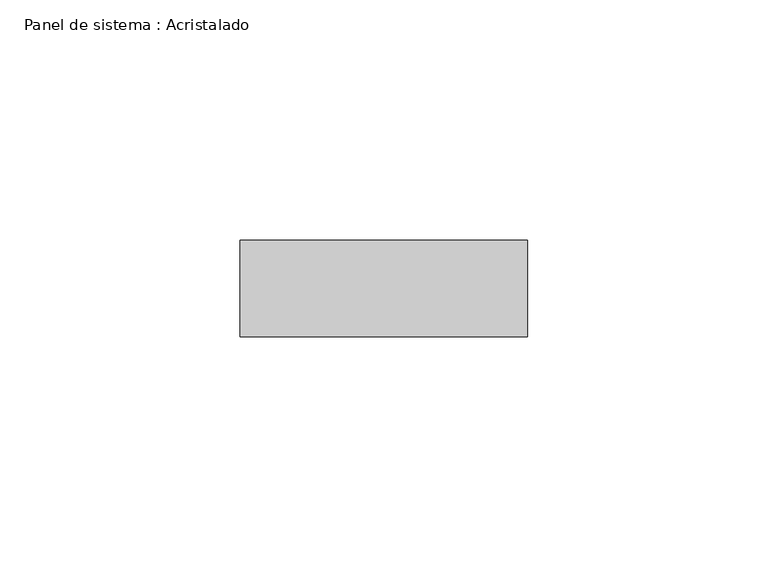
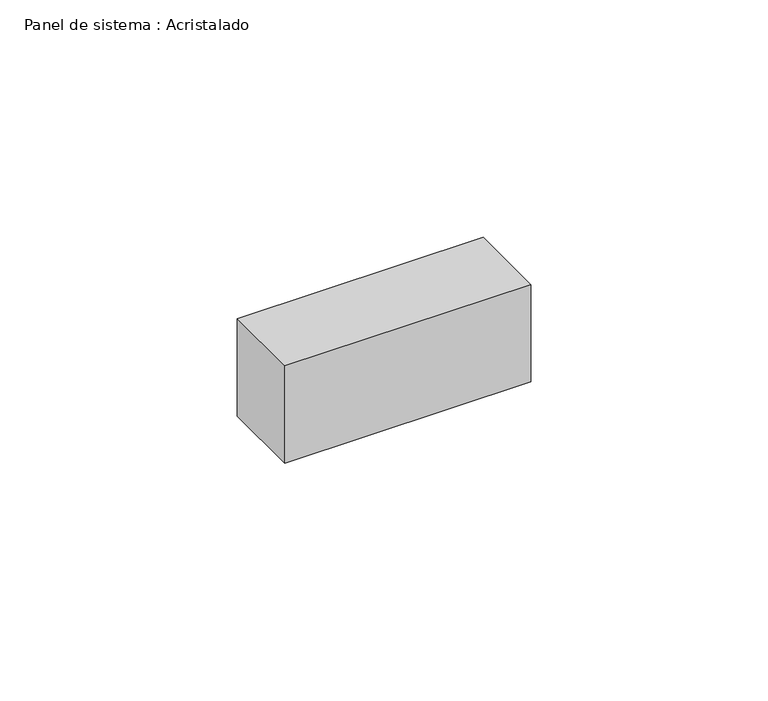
"""IFC4 building model written with IfcOpenShell, lengths in millimetres: plate geometry, Panel de sistema : Acristalado."""

from ifc_helpers import new_model, si_unit, origin, origin_with_axes, place, context, project, spatial, polyline, outline, extrude, source, transform, mapped, element, save


def panel_de_sistema_acristalado_f6992cc6(model_context):
    return source(origin(), model_context, "Body", "SweptSolid", [
        extrude(outline(polyline([(29.8740406, -10.0), (-29.8740406, -10.0), (-29.8740406, 10.0), (29.8740406, 10.0), (29.8740406, -10.0)])), origin_with_axes(), (0.0, 0.0, 1.0), 25.0),
    ])


if __name__ == "__main__":
    model = new_model("IFC4")
    model_context = context("Model", 3, world=origin())
    ifc_project = project(units=[si_unit("LENGTHUNIT", "METRE", prefix="MILLI")], contexts=[model_context])
    site = spatial("IfcSite", under=ifc_project)
    building = spatial("IfcBuilding", under=site)
    placement = place(None, origin())
    panel_de_sistema_acristalado_shape = panel_de_sistema_acristalado_f6992cc6(model_context)
    element("IfcPlate", 1, ObjectType="Panel de sistema : Acristalado", at=placement, inside=building, context=model_context, shape_type="MappedRepresentation", body=[
        mapped(panel_de_sistema_acristalado_shape, transform((0.0, 0.0, 0.0), x_axis=(1.0, 0.0, 0.0), y_axis=(0.0, 1.0, 0.0), z_axis=(0.0, 0.0, 1.0))),
    ])
    save(model, "model.ifc")
